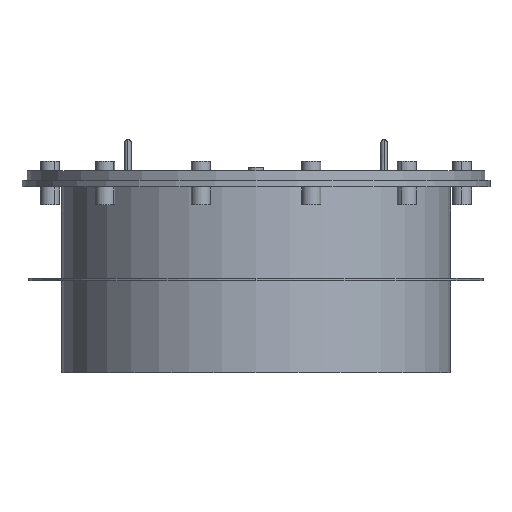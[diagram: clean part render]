
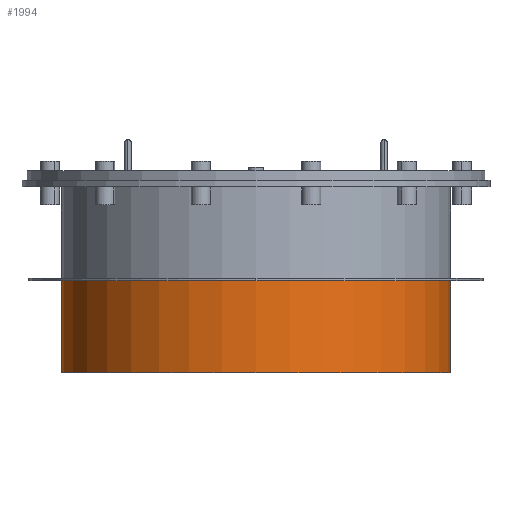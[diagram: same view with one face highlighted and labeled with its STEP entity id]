
A CAD part, front view. The second image highlights one B-rep face of the part: STEP entity #1994.
In plain terms, the highlighted cylindrical face has radius 304 mm (diameter 608 mm), a partial arc.
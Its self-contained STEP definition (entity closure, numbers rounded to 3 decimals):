
#132=CARTESIAN_POINT('',(0.,0.,-300.));
#133=DIRECTION('',(0.,0.,1.));
#134=DIRECTION('',(-1.,0.,0.));
#135=AXIS2_PLACEMENT_3D('',#132,#133,#134);
#160=DIRECTION('',(0.,0.,-1.));
#161=VECTOR('',#160,143.);
#162=CARTESIAN_POINT('',(304.,0.,-157.));
#163=LINE('',#162,#161);
#206=CARTESIAN_POINT('',(0.,0.,-157.));
#207=DIRECTION('',(0.,0.,1.));
#208=DIRECTION('',(-1.,0.,0.));
#209=AXIS2_PLACEMENT_3D('',#206,#207,#208);
#211=DIRECTION('',(0.,0.,-1.));
#212=VECTOR('',#211,143.);
#213=CARTESIAN_POINT('',(-304.,0.,-157.));
#214=LINE('',#213,#212);
#1501=CARTESIAN_POINT('',(304.,0.,-300.));
#1502=CARTESIAN_POINT('',(-304.,0.,-300.));
#1503=VERTEX_POINT('',#1501);
#1504=VERTEX_POINT('',#1502);
#1525=CARTESIAN_POINT('',(304.,0.,-157.));
#1526=CARTESIAN_POINT('',(-304.,0.,-157.));
#1527=VERTEX_POINT('',#1525);
#1528=VERTEX_POINT('',#1526);
#1983=CARTESIAN_POINT('',(0.,0.,0.));
#1984=DIRECTION('',(0.,0.,1.));
#1985=DIRECTION('',(1.,0.,0.));
#1986=AXIS2_PLACEMENT_3D('',#1983,#1984,#1985);
#1987=CYLINDRICAL_SURFACE('',#1986,304.);
#1988=ORIENTED_EDGE('',*,*,#1935,.T.);
#1989=ORIENTED_EDGE('',*,*,#1888,.T.);
#1990=ORIENTED_EDGE('',*,*,#1808,.F.);
#1991=ORIENTED_EDGE('',*,*,#1885,.F.);
#1992=EDGE_LOOP('',(#1988,#1989,#1990,#1991));
#1993=FACE_OUTER_BOUND('',#1992,.F.);
#136=CIRCLE('',#135,304.);
#210=CIRCLE('',#209,304.);
#1808=EDGE_CURVE('',#1504,#1503,#136,.T.);
#1885=EDGE_CURVE('',#1528,#1504,#214,.T.);
#1888=EDGE_CURVE('',#1527,#1503,#163,.T.);
#1935=EDGE_CURVE('',#1528,#1527,#210,.T.);
#1994=ADVANCED_FACE('',(#1993),#1987,.T.);
